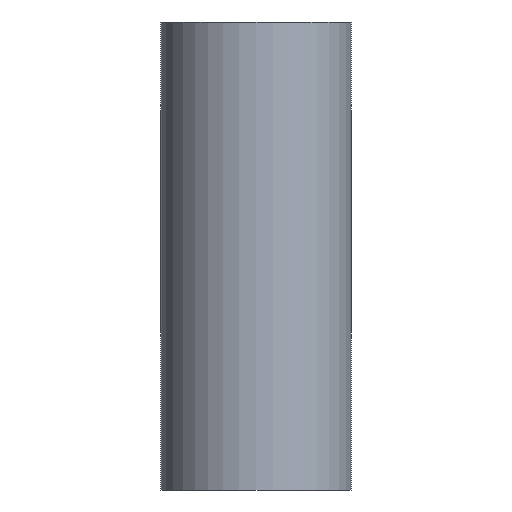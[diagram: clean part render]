
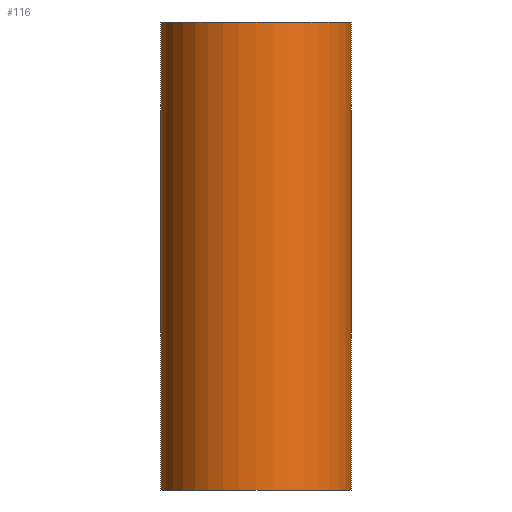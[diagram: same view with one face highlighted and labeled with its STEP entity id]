
A CAD part, left-side view. The second image highlights one B-rep face of the part: STEP entity #116.
In plain terms, the highlighted cylindrical face has radius 55 mm (diameter 110 mm), a full revolution.
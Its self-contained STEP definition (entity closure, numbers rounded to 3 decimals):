
#23=FACE_BOUND('',#51,.T.);
#24=FACE_BOUND('',#52,.T.);
#30=CIRCLE('',#151,55.);
#31=CIRCLE('',#153,55.);
#37=FACE_OUTER_BOUND('',#50,.T.);
#50=EDGE_LOOP('',(#93));
#51=EDGE_LOOP('',(#94,#95));
#52=EDGE_LOOP('',(#96));
#57=ELLIPSE('',#146,143.722,55.);
#58=ELLIPSE('',#147,59.532,55.);
#64=VERTEX_POINT('',#205);
#65=VERTEX_POINT('',#206);
#67=VERTEX_POINT('',#213);
#68=VERTEX_POINT('',#216);
#74=EDGE_CURVE('',#64,#65,#57,.T.);
#75=EDGE_CURVE('',#65,#64,#58,.T.);
#77=EDGE_CURVE('',#67,#67,#30,.T.);
#78=EDGE_CURVE('',#68,#68,#31,.T.);
#93=ORIENTED_EDGE('',*,*,#77,.T.);
#94=ORIENTED_EDGE('',*,*,#75,.T.);
#95=ORIENTED_EDGE('',*,*,#74,.T.);
#96=ORIENTED_EDGE('',*,*,#78,.F.);
#102=CYLINDRICAL_SURFACE('',#152,55.);
#116=ADVANCED_FACE('',(#37,#23,#24),#102,.T.);
#146=AXIS2_PLACEMENT_3D('',#207,#173,#174);
#147=AXIS2_PLACEMENT_3D('',#208,#175,#176);
#151=AXIS2_PLACEMENT_3D('',#214,#183,#184);
#152=AXIS2_PLACEMENT_3D('',#215,#185,#186);
#153=AXIS2_PLACEMENT_3D('',#217,#187,#188);
#173=DIRECTION('center_axis',(-0.924,0.,0.383));
#174=DIRECTION('ref_axis',(-0.383,0.,-0.924));
#175=DIRECTION('center_axis',(-0.383,0.,-0.924));
#176=DIRECTION('ref_axis',(0.924,0.,-0.383));
#183=DIRECTION('center_axis',(0.,0.,-1.));
#184=DIRECTION('ref_axis',(1.,0.,0.));
#185=DIRECTION('center_axis',(0.,0.,-1.));
#186=DIRECTION('ref_axis',(-1.,0.,0.));
#187=DIRECTION('center_axis',(0.,0.,-1.));
#188=DIRECTION('ref_axis',(1.,0.,0.));
#205=CARTESIAN_POINT('',(0.,-55.,90.));
#206=CARTESIAN_POINT('',(0.,55.,90.));
#207=CARTESIAN_POINT('Origin',(0.,0.,90.));
#208=CARTESIAN_POINT('Origin',(0.,0.,90.));
#213=CARTESIAN_POINT('',(-55.,0.,270.));
#214=CARTESIAN_POINT('Origin',(0.,0.,270.));
#215=CARTESIAN_POINT('Origin',(0.,0.,135.));
#216=CARTESIAN_POINT('',(-55.,0.,0.));
#217=CARTESIAN_POINT('Origin',(0.,0.,0.));
